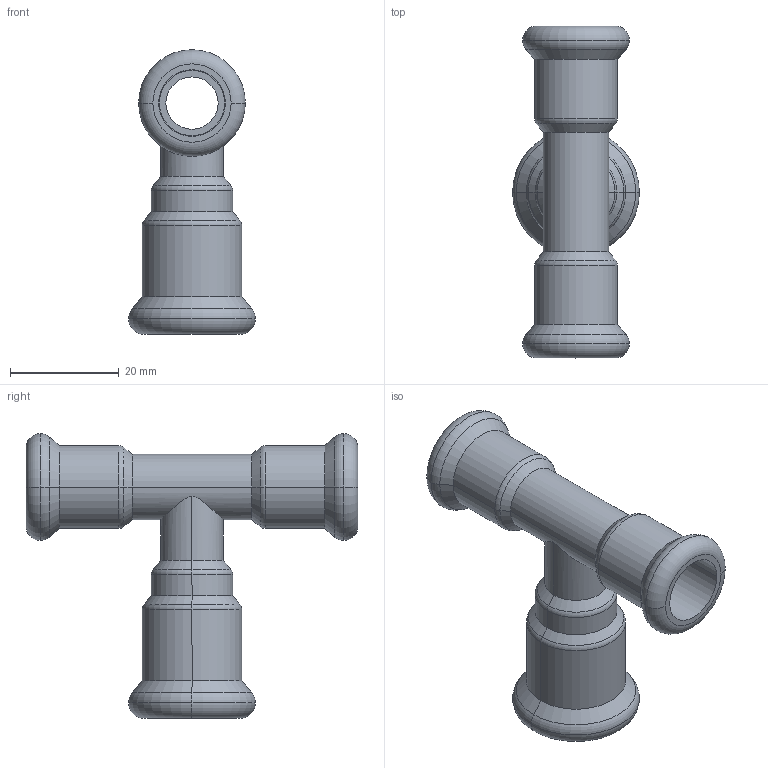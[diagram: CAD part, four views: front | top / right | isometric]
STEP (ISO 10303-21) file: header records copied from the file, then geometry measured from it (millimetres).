
FILE_DESCRIPTION(('CoCreate Modeling STEP Export'),'2;1');
FILE_NAME('C1415 12x15x12.stp','2014-11-11T17:00:52',(''),(''),'CoCreate Modeling STEP processor for AP214 (Solid Model)','CoCreate Modeling 17.00A 17-Jun-2010 (C) Parametric Technology GmbH','');
FILE_SCHEMA(('AUTOMOTIVE_DESIGN { 1 0 10303 214 1 1 1 1 }'));
Length unit declared in the file: millimetre
Products named in the file (2): C1415_12x15x12
Assembly tree (1 placements, depth 2):
  C1415_12x15x12
    C1415_12x15x12
Bounding box: 23.3 x 61 x 52.3 mm (x, y, z)
Volume: 7736.1 mm3; surface area: 9314.5 mm2
Topology: 1 solids, 1 shells, 76 faces, 155 edges, 89 vertices
Faces by surface type: cylinder 31, torus 20, cone 16, plane 9
Entity records: 2702 total; most frequent: CARTESIAN_POINT 1303, ORIENTED_EDGE 310, DIRECTION 250, EDGE_CURVE 155, AXIS2_PLACEMENT_3D 102, VERTEX_POINT 89, EDGE_LOOP 86, FACE_OUTER_BOUND 76
